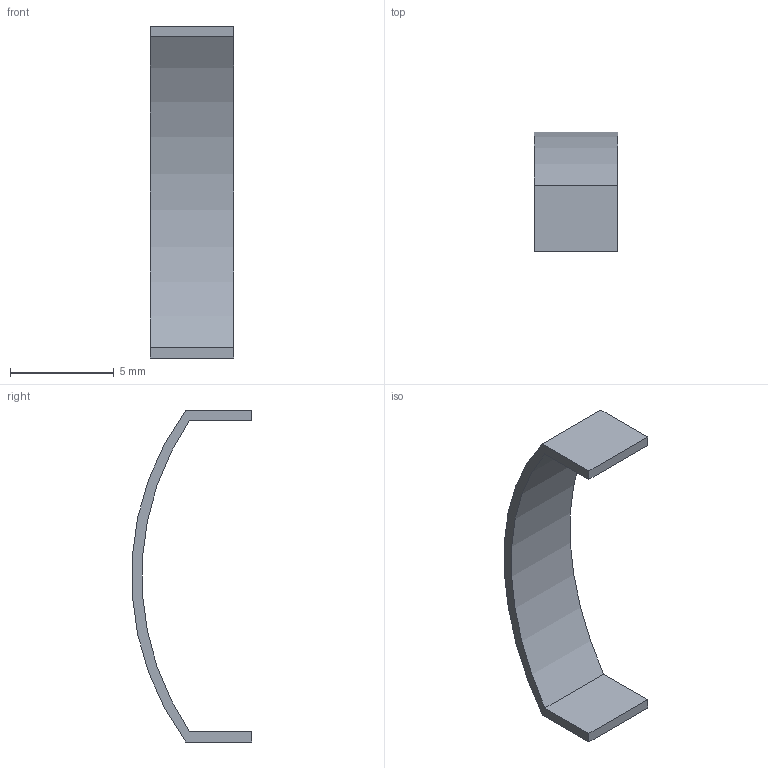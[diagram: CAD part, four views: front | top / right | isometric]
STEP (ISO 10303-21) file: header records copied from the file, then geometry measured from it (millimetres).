
FILE_DESCRIPTION(/* description */ (''),/* implementation_level */ '2;1');
FILE_NAME(/* name */ 'C:\Users\daniele.berto\Desktop\NUOVI RENDERING DA FARE\N12-08-01.stp',/* time_stamp */ '2022-05-28T10:10:40+02:00',/* author */ ('daniele.berto'),/* organization */ ('TraceParts S.A.'),/* preprocessor_version */ 'ST-DEVELOPER v18.1',/* originating_system */ 'Autodesk Inventor 2021',/* authorisation */ '');
FILE_SCHEMA (('CONFIG_CONTROL_DESIGN'));
Length unit declared in the file: millimetre
Products named in the file (1): 2_12_08_m4_01
Bounding box: 4 x 5.77 x 16 mm (x, y, z)
Volume: 44 mm3; surface area: 207.6 mm2
Topology: 1 solids, 1 shells, 10 faces, 24 edges, 16 vertices
Faces by surface type: plane 8, cylinder 2
Entity records: 333 total; most frequent: CARTESIAN_POINT 51, DIRECTION 50, ORIENTED_EDGE 48, EDGE_CURVE 24, LINE 20, VECTOR 20, VERTEX_POINT 16, AXIS2_PLACEMENT_3D 15
